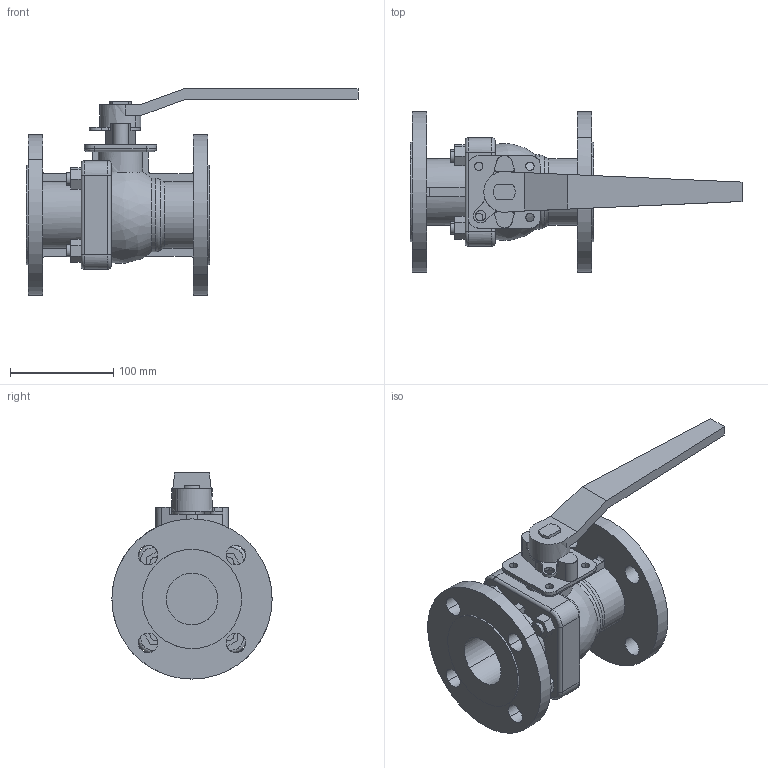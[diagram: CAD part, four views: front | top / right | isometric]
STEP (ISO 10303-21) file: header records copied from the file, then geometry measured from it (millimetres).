
FILE_DESCRIPTION((''),'2;1');
FILE_NAME('','2022-03-23T15:24:17',(''),(''),'','CADfix','');
FILE_SCHEMA(('AUTOMOTIVE_DESIGN { 1 0 10303 214 1 1 1 1 }'));
Length unit declared in the file: millimetre
Products named in the file (2): BLV-2SFJ 50A; BLV-2SF JIS 10K 50A_38
Assembly tree (1 placements, depth 2):
  BLV-2SF JIS 10K 50A_38
    BLV-2SFJ 50A
Bounding box: 321.3 x 155 x 199.5 mm (x, y, z)
Volume: 1272326.9 mm3; surface area: 198692.9 mm2
Topology: 1 solids, 1 shells, 217 faces, 772 edges, 572 vertices
Faces by surface type: bspline 217
Entity records: 11321 total; most frequent: CARTESIAN_POINT 6209, ORIENTED_EDGE 1544, EDGE_CURVE 772, STYLED_ITEM 626, VERTEX_POINT 572, B_SPLINE_CURVE_WITH_KNOTS 377, QUASI_UNIFORM_CURVE 320, EDGE_LOOP 262
